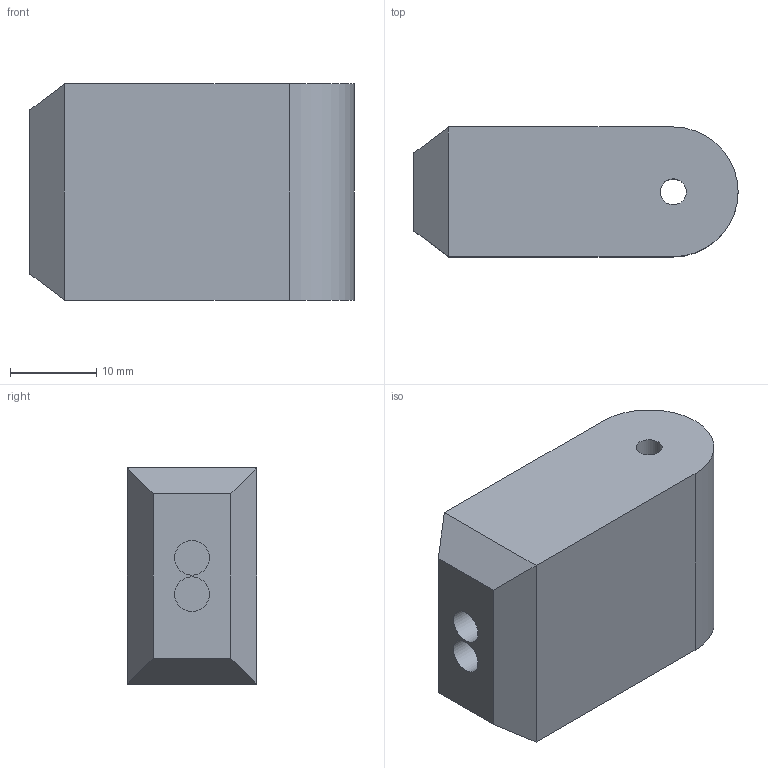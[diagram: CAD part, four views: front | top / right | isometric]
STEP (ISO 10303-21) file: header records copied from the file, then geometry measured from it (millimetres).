
FILE_DESCRIPTION(/* description */ ('STEP AP242 Edition 2','CAx-IF Rec.Pracs.---Representation and Presentation of Product Manufacturing Information (PMI)---4.0---2014-10-13','CAx-IF Rec.Pracs.---3D Tessellated Geometry---0.4---2014-09-14','2;1','CAx-IF Rec.Pracs.---User Defined Attributes---1.5---2016-08-15'),/* implementation_level */ '2;1');
FILE_NAME(/* name */ '695aff2bd13f1a0233889562',/* time_stamp */ '2026-01-05T00:00:44Z',/* author */ (''),/* organization */ (''),/* preprocessor_version */ 'ST-DEVELOPER v20',/* originating_system */ 'ONSHAPE BY PTC INC, 1.208',/* authorisation */ ' ');
FILE_SCHEMA (('AP242_MANAGED_MODEL_BASED_3D_ENGINEERING_MIM_LF { 1 0 10303 442 3 1 4 }'));
Length unit declared in the file: metre
Products named in the file (1): Part 1
Bounding box: 37.5 x 15 x 25 mm (x, y, z)
Volume: 12196.8 mm3; surface area: 4231.7 mm2
Topology: 1 solids, 1 shells, 15 faces, 29 edges, 18 vertices
Faces by surface type: plane 11, cylinder 4
Full cylindrical faces by diameter (mm): 3 x1, 4 x2
Entity records: 390 total; most frequent: DIRECTION 66, CARTESIAN_POINT 60, ORIENTED_EDGE 52, EDGE_CURVE 26, AXIS2_PLACEMENT_3D 24, EDGE_LOOP 22, FACE_BOUND 22, VERTEX_POINT 18
